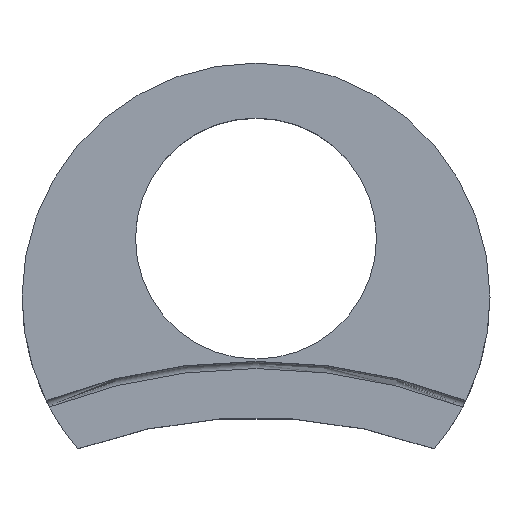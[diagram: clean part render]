
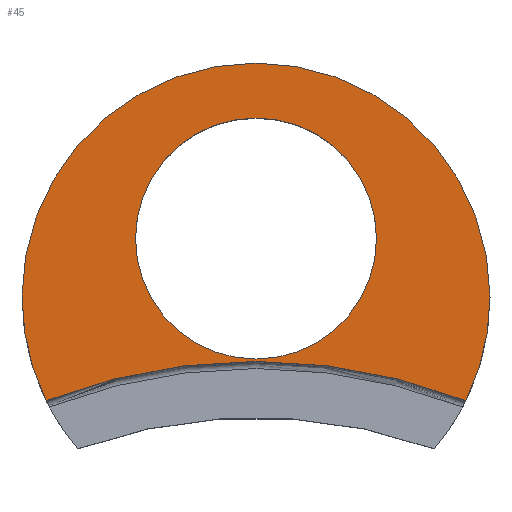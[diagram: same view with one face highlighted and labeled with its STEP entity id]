
A CAD part, top view. The second image highlights one B-rep face of the part: STEP entity #45.
In plain terms, the highlighted planar face has unit normal (0, 0, 1).
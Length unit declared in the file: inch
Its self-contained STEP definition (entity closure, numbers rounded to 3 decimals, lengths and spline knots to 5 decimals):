
#15 = CARTESIAN_POINT ( 'NONE',  ( -0.2575, 0.125, 0. ) ) ;
#23 = EDGE_CURVE ( 'NONE', #86, #25, #24, .T. ) ;
#24 = CIRCLE ( 'NONE', #94, 0.2575 ) ;
#25 = VERTEX_POINT ( 'NONE', #96 ) ;
#29 = EDGE_CURVE ( 'NONE', #33, #46, #225, .T. ) ;
#33 = VERTEX_POINT ( 'NONE', #253 ) ;
#36 = VERTEX_POINT ( 'NONE', #189 ) ;
#38 = EDGE_CURVE ( 'NONE', #36, #33, #286, .T. ) ;
#45 = ADVANCED_FACE ( 'NONE', ( #156, #166 ), #293, .T. ) ;
#46 = VERTEX_POINT ( 'NONE', #160 ) ;
#48 = EDGE_LOOP ( 'NONE', ( #115, #102 ) ) ;
#51 = CARTESIAN_POINT ( 'NONE',  ( 0., 0.125, 0. ) ) ;
#55 = EDGE_CURVE ( 'NONE', #36, #130, #159, .T. ) ;
#57 = EDGE_LOOP ( 'NONE', ( #59, #62, #61, #64 ) ) ;
#59 = ORIENTED_EDGE ( 'NONE', *, *, #55, .F. ) ;
#61 = ORIENTED_EDGE ( 'NONE', *, *, #29, .T. ) ;
#62 = ORIENTED_EDGE ( 'NONE', *, *, #38, .T. ) ;
#64 = ORIENTED_EDGE ( 'NONE', *, *, #133, .T. ) ;
#80 = EDGE_CURVE ( 'NONE', #25, #86, #192, .T. ) ;
#86 = VERTEX_POINT ( 'NONE', #15 ) ;
#92 = DIRECTION ( 'NONE',  ( 1., 0., 0. ) ) ;
#93 = DIRECTION ( 'NONE',  ( 0., 0., 1. ) ) ;
#94 = AXIS2_PLACEMENT_3D ( 'NONE', #51, #93, #92 ) ;
#96 = CARTESIAN_POINT ( 'NONE',  ( 0.2575, 0.125, 0. ) ) ;
#102 = ORIENTED_EDGE ( 'NONE', *, *, #23, .F. ) ;
#115 = ORIENTED_EDGE ( 'NONE', *, *, #80, .F. ) ;
#130 = VERTEX_POINT ( 'NONE', #394 ) ;
#133 = EDGE_CURVE ( 'NONE', #46, #130, #388, .T. ) ;
#156 = FACE_BOUND ( 'NONE', #48, .T. ) ;
#159 = CIRCLE ( 'NONE', #183, 1.245 ) ;
#160 = CARTESIAN_POINT ( 'NONE',  ( -0.5, 0., 0. ) ) ;
#161 = CARTESIAN_POINT ( 'NONE',  ( 0., 0., 0. ) ) ;
#162 = AXIS2_PLACEMENT_3D ( 'NONE', #161, #226, #280 ) ;
#166 = FACE_OUTER_BOUND ( 'NONE', #57, .T. ) ;
#180 = DIRECTION ( 'NONE',  ( 1., 0., 0. ) ) ;
#181 = DIRECTION ( 'NONE',  ( 0., 0., 1. ) ) ;
#182 = CARTESIAN_POINT ( 'NONE',  ( 0., -1.3825, 0. ) ) ;
#183 = AXIS2_PLACEMENT_3D ( 'NONE', #182, #181, #180 ) ;
#189 = CARTESIAN_POINT ( 'NONE',  ( 0.44847, -0.22108, 0. ) ) ;
#192 = CIRCLE ( 'NONE', #290, 0.2575 ) ;
#223 = DIRECTION ( 'NONE',  ( 0., 0., 1. ) ) ;
#225 = CIRCLE ( 'NONE', #287, 0.5 ) ;
#226 = DIRECTION ( 'NONE',  ( 0., 0., 1. ) ) ;
#240 = DIRECTION ( 'NONE',  ( 1., 0., 0. ) ) ;
#241 = DIRECTION ( 'NONE',  ( 0., 0., 1. ) ) ;
#242 = CARTESIAN_POINT ( 'NONE',  ( 0., 0.125, 0. ) ) ;
#251 = CARTESIAN_POINT ( 'NONE',  ( 0., 0., 0. ) ) ;
#253 = CARTESIAN_POINT ( 'NONE',  ( 0.5, 0., 0. ) ) ;
#280 = DIRECTION ( 'NONE',  ( 1., 0., 0. ) ) ;
#286 = CIRCLE ( 'NONE', #302, 0.5 ) ;
#287 = AXIS2_PLACEMENT_3D ( 'NONE', #251, #223, #291 ) ;
#290 = AXIS2_PLACEMENT_3D ( 'NONE', #242, #241, #240 ) ;
#291 = DIRECTION ( 'NONE',  ( 1., 0., 0. ) ) ;
#293 = PLANE ( 'NONE',  #162 ) ;
#299 = DIRECTION ( 'NONE',  ( 1., 0., 0. ) ) ;
#300 = DIRECTION ( 'NONE',  ( 0., 0., 1. ) ) ;
#301 = CARTESIAN_POINT ( 'NONE',  ( 0., 0., 0. ) ) ;
#302 = AXIS2_PLACEMENT_3D ( 'NONE', #301, #300, #299 ) ;
#374 = DIRECTION ( 'NONE',  ( 1., 0., 0. ) ) ;
#375 = DIRECTION ( 'NONE',  ( 0., 0., 1. ) ) ;
#383 = CARTESIAN_POINT ( 'NONE',  ( 0., 0., 0. ) ) ;
#385 = AXIS2_PLACEMENT_3D ( 'NONE', #383, #375, #374 ) ;
#388 = CIRCLE ( 'NONE', #385, 0.5 ) ;
#394 = CARTESIAN_POINT ( 'NONE',  ( -0.44847, -0.22108, 0. ) ) ;
